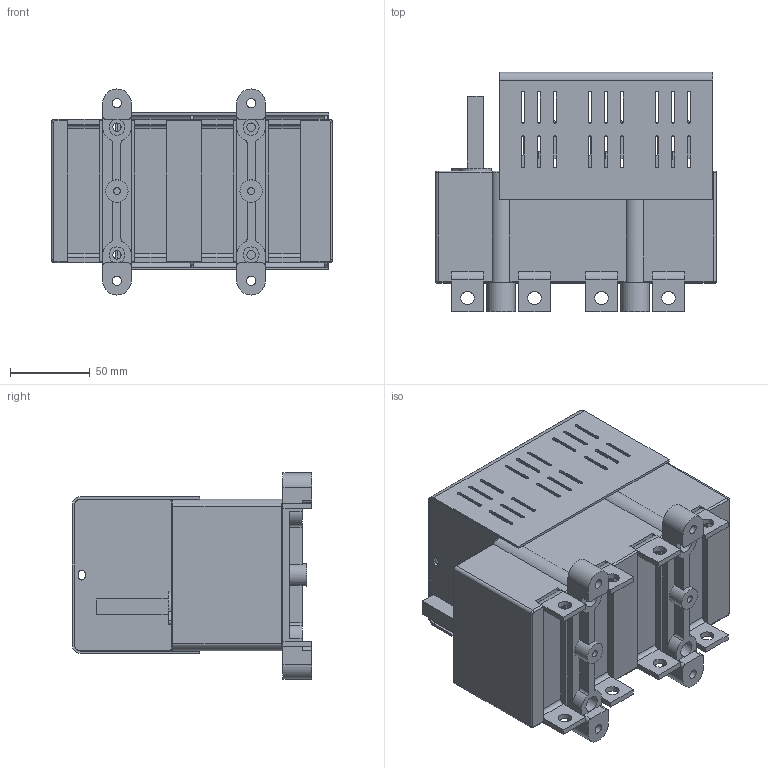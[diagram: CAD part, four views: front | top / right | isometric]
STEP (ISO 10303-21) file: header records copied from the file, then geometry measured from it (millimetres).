
FILE_DESCRIPTION(/* description */ (''),/* implementation_level */ '2;1');
FILE_NAME(/* name */ 'RAB 00 P3 NC.stp',/* time_stamp */ '2021-08-19T11:44:36+02:00',/* author */ (''),/* organization */ (''),/* preprocessor_version */ 'ST-DEVELOPER v18.1',/* originating_system */ 'SIEMENS PLM Software NX 1965',/* authorisation */ '');
FILE_SCHEMA (('AUTOMOTIVE_DESIGN { 1 0 10303 214 3 1 1 1 }'));
Length unit declared in the file: millimetre
Products named in the file (1): RAB 00 P3 NC_stp
Bounding box: 176 x 150 x 129.18 mm (x, y, z)
Volume: 1230026.1 mm3; surface area: 223885.1 mm2
Topology: 1 solids, 1 shells, 896 faces, 2532 edges, 1654 vertices
Faces by surface type: plane 566, cylinder 318, torus 7, bspline 5
Full cylindrical faces by diameter (mm): 2.7 x4, 4.3 x2, 5 x6, 5.3 x4, 5.8 x4, 8.5 x8, 10 x8, 14 x2
Entity records: 28905 total; most frequent: CARTESIAN_POINT 5173, ORIENTED_EDGE 4932, DIRECTION 4874, EDGE_CURVE 2466, LINE 1792, VECTOR 1792, VERTEX_POINT 1626, AXIS2_PLACEMENT_3D 1541
